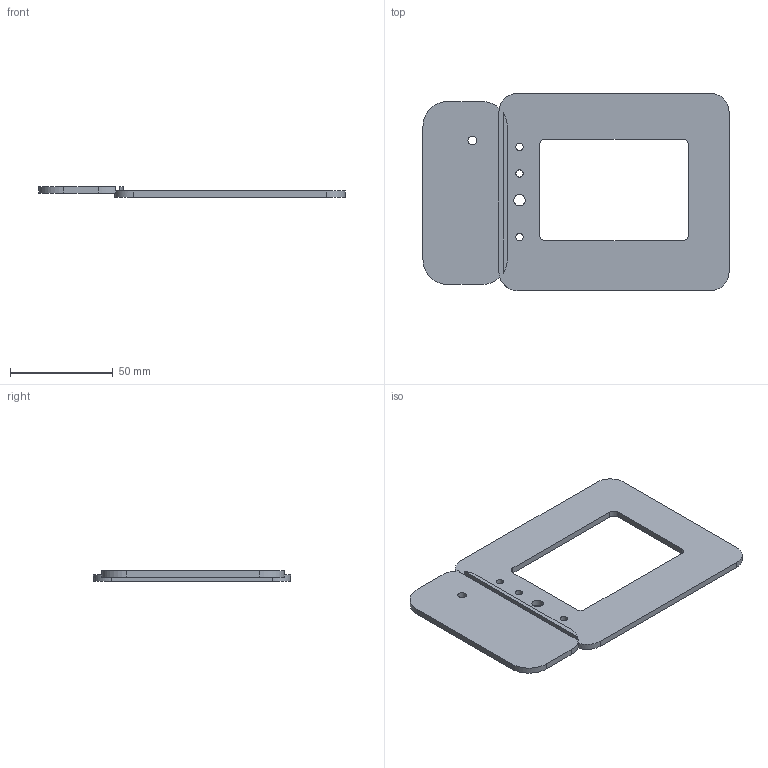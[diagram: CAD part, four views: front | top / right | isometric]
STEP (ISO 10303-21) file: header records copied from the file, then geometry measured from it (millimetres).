
FILE_DESCRIPTION(('Open CASCADE Model'),'2;1');
FILE_NAME('Open CASCADE Shape Model','2026-11-05T02:23:55',('Author'),( 'Open CASCADE'),'Open CASCADE STEP processor 7.8','Open CASCADE 7.8' ,'Unknown');
FILE_SCHEMA(('AUTOMOTIVE_DESIGN { 1 0 10303 214 1 1 1 1 }'));
Length unit declared in the file: millimetre
Products named in the file (1): Open CASCADE STEP translator 7.8 5
Bounding box: 149 x 96 x 5 mm (x, y, z)
Volume: 31042.3 mm3; surface area: 23471.7 mm2
Topology: 1 solids, 1 shells, 41 faces, 112 edges, 74 vertices
Faces by surface type: cylinder 22, plane 19
Full cylindrical faces by diameter (mm): 3.6 x3, 4.2 x1, 5.6 x1
Entity records: 2884 total; most frequent: CARTESIAN_POINT 608, DIRECTION 440, LINE 244, VECTOR 244, ORIENTED_EDGE 224, PCURVE 224, DEFINITIONAL_REPRESENTATION 224, EDGE_CURVE 112
